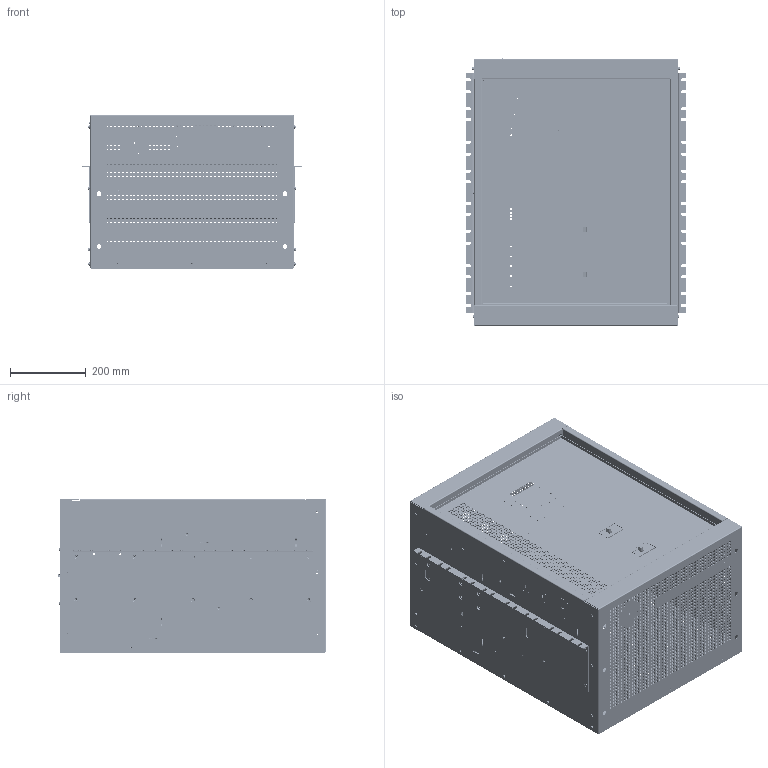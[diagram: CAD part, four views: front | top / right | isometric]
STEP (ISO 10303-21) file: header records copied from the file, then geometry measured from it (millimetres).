
FILE_DESCRIPTION (( 'STEP AP214' ), '1' );
FILE_NAME ('3DCAD-Q2-RACK MOUNT-STEP_REVA.STEP', '2014-04-03T20:08:12', ( 'barrye' ), ( '' ), 'SwSTEP 2.0', 'SolidWorks 2012', '' );
FILE_SCHEMA (( 'AUTOMOTIVE_DESIGN' ));
Length unit declared in the file: inch
Products named in the file (15): 942035_CR-FHMS 0.19-32x0.375x0.375-N; 932029_93882A193; 83-16-01; 83-05-02; 83-05-02_reinforce-channel-M2; 83-05-02_panel; 83-02-02; q2_master_door_3D CAD BLANK DOOR; 808560; 83-04-01; q2_master_breaker_panel_BREAKERS ONLY; breaker_squared_fal_2_pole_assy; breaker_squared_fal_2_pole_part; 83-01-02; 3DCAD-Q2-RACK MOUNT-STEP_REVA
Assembly tree (57 placements, depth 4):
  3DCAD-Q2-RACK MOUNT-STEP_REVA
    83-01-02
    q2_master_breaker_panel_BREAKERS ONLY
      breaker_squared_fal_2_pole_assy  x2
        breaker_squared_fal_2_pole_part
    q2_master_door_3D CAD BLANK DOOR
      83-04-01
      808560
    83-02-02
    83-05-02
      83-05-02_panel
      83-05-02_reinforce-channel-M2
    83-16-01  x2
    932029_93882A193  x22
    942035_CR-FHMS 0.19-32x0.375x0.375-N  x21
Bounding box: 584.25 x 709.13 x 405.63 mm (x, y, z)
Volume: 5906104 mm3; surface area: 4520687.2 mm2
Topology: 81 solids, 81 shells, 17164 faces, 49717 edges, 33014 vertices
Faces by surface type: plane 14845, cylinder 1029, bspline 951, cone 243, torus 96
Full cylindrical faces by diameter (mm): 0.127 x4, 1.016 x2, 2.438 x1, 2.896 x5, 2.9 x1, 2.997 x11, 3.175 x2, 3.75 x4, 3.922 x4, 3.937 x4, 3.988 x11, 4.14 x6, 4.3 x36, 4.305 x2, 4.318 x1, 4.496 x27, 4.775 x7, 4.801 x3, 4.826 x23, 5.08 x4, 5.156 x5, 5.385 x6, 5.41 x17, 5.537 x8, 5.634 x1, 5.944 x31, 6.02 x4, 6.502 x5, 6.731 x2, 7.112 x1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
Entity records: 555983 total; most frequent: CARTESIAN_POINT 119148, ORIENTED_EDGE 89600, DIRECTION 75658, EDGE_CURVE 44800, VECTOR 42228, LINE 42228, VERTEX_POINT 30028, EDGE_LOOP 22898
